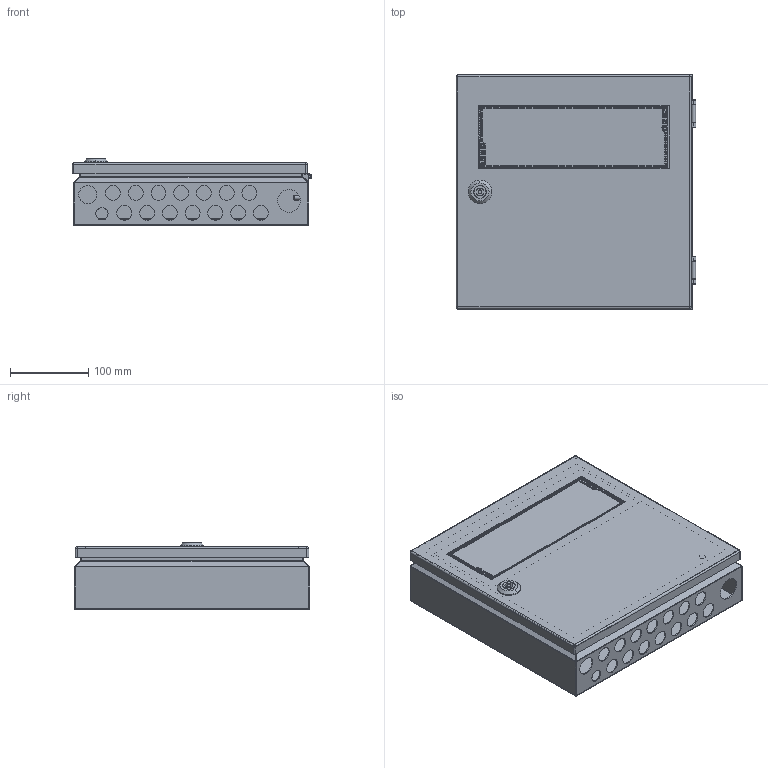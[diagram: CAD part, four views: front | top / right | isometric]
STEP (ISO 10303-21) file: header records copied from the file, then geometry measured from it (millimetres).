
FILE_DESCRIPTION (( 'STEP AP203' ), '1' );
FILE_NAME ('MEV 30.30.08 PG Øêàô êîìïàêòíûé ðàñïðåäåëèòåëüíûé ñ îáçîðíîé äâåðüþ.STEP', '2015-02-12T07:41:32', ( 'System' ), ( '' ), 'SwSTEP 2.0', 'SolidWorks 2012', '' );
FILE_SCHEMA (( 'CONFIG_CONTROL_DESIGN' ));
Products named in the file (8): MEV 30.30.08 PG Øêàô êîìïàêòíûé ðàñïðåäåëèòåëüíûé ñ îáçîðíîé äâåðüþ; Êîðïóñíàÿ ÷àñòü ÑÁ; ãàéêà Ì4 ñ ôëàíöåì îö. ; 216-0140 frame part; Ãàéêà Ì5 ñ ôëàíöåì DIN 6923; MES 20.20 03.000ﾑﾁ ﾄ粢_MEV 30.30 03.000早 ┐･瑟; DR 07.90 Ex DIN-ðåéêà_DR 07.285 Ex DIN-à¥©ª ; MES 20.20.08 01.000蚜 暑痫篑_MEV 30.30.08 PG 01.000憗 姰喁汜
Assembly tree (12 placements, depth 3):
  MEV 30.30.08 PG Øêàô êîìïàêòíûé ðàñïðåäåëèòåëüíûé ñ îáçîðíîé äâåðüþ
    MES 20.20.08 01.000蚜 暑痫篑_MEV 30.30.08 PG 01.000憗 姰喁汜
    DR 07.90 Ex DIN-ðåéêà_DR 07.285 Ex DIN-à¥©ª   x2
    MES 20.20 03.000ﾑﾁ ﾄ粢_MEV 30.30 03.000早 ┐･瑟
    Ãàéêà Ì5 ñ ôëàíöåì DIN 6923  x4
    Êîðïóñíàÿ ÷àñòü ÑÁ  x2
      216-0140 frame part
      ãàéêà Ì4 ñ ôëàíöåì îö. 
Bounding box: 305.8 x 300 x 84.5 mm (x, y, z)
Volume: 534644.4 mm3; surface area: 654498.7 mm2
Topology: 39 solids, 39 shells, 2688 faces, 6862 edges, 4394 vertices
Faces by surface type: plane 1317, cylinder 982, bspline 220, cone 128, torus 25, sphere 16
Entity records: 71068 total; most frequent: CARTESIAN_POINT 16575, ORIENTED_EDGE 11150, DIRECTION 11063, EDGE_CURVE 5575, AXIS2_PLACEMENT_3D 4005, VERTEX_POINT 3615, VECTOR 3053, LINE 3053
